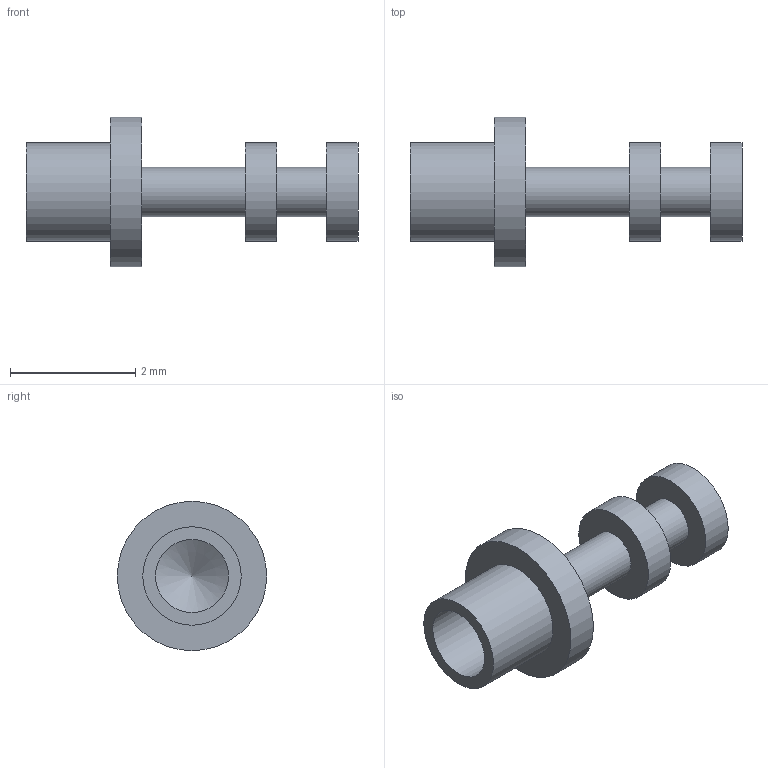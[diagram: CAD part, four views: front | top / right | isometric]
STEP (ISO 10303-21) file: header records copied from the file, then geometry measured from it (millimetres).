
FILE_DESCRIPTION(/* description */ (''),/* implementation_level */ '2;1');
FILE_NAME(/* name */ 'Z:\STEP folder\160-3653-01.ipt.stp',/* time_stamp */ '2016-12-07T10:52:02+00:00',/* author */ ('Paul Karlsons'),/* organization */ (''),/* preprocessor_version */ 'ST-DEVELOPER v15.2',/* originating_system */ 'Autodesk Inventor 2014',/* authorisation */ '');
FILE_SCHEMA (('AUTOMOTIVE_DESIGN { 1 0 10303 214 3 1 1 }'));
Length unit declared in the file: millimetre
Products named in the file (1): 160-3653-01
Bounding box: 5.31 x 2.39 x 2.39 mm (x, y, z)
Volume: 6.7 mm3; surface area: 40.7 mm2
Topology: 1 solids, 1 shells, 15 faces, 23 edges, 15 vertices
Faces by surface type: cylinder 7, plane 7, cone 1
Full cylindrical faces by diameter (mm): 0.787 x2, 1.168 x1, 1.575 x3, 2.388 x1
Entity records: 315 total; most frequent: DIRECTION 60, CARTESIAN_POINT 44, AXIS2_PLACEMENT_3D 30, EDGE_LOOP 28, ORIENTED_EDGE 28, FACE_BOUND 16, ADVANCED_FACE 15, CIRCLE 14
